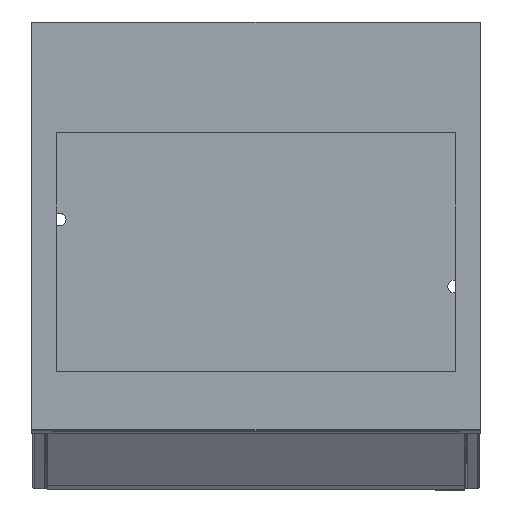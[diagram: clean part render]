
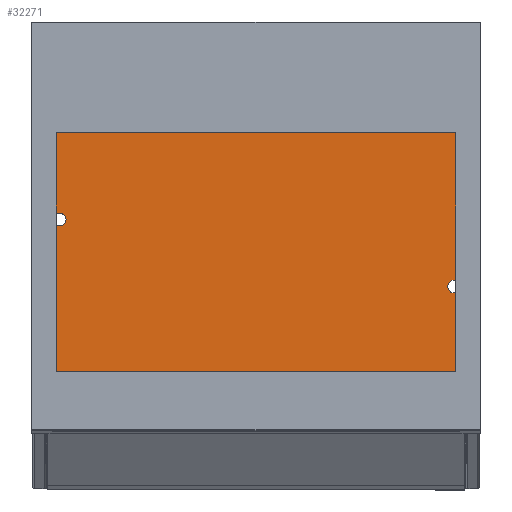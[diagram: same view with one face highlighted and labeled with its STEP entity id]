
A CAD part, top view. The second image highlights one B-rep face of the part: STEP entity #32271.
In plain terms, the highlighted planar face has unit normal (0, 0, 1).
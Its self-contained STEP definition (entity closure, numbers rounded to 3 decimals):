
#2449=CIRCLE('',#35239,11.);
#2450=CIRCLE('',#35240,11.);
#2451=CIRCLE('',#35241,30.);
#8779=ORIENTED_EDGE('',*,*,#15331,.F.);
#8780=ORIENTED_EDGE('',*,*,#15332,.F.);
#8781=ORIENTED_EDGE('',*,*,#15333,.F.);
#8782=ORIENTED_EDGE('',*,*,#15334,.F.);
#8783=ORIENTED_EDGE('',*,*,#15335,.F.);
#8784=ORIENTED_EDGE('',*,*,#15336,.F.);
#8785=ORIENTED_EDGE('',*,*,#15337,.F.);
#8786=ORIENTED_EDGE('',*,*,#15338,.F.);
#8787=ORIENTED_EDGE('',*,*,#15339,.F.);
#8788=ORIENTED_EDGE('',*,*,#15340,.F.);
#8789=ORIENTED_EDGE('',*,*,#15341,.F.);
#8790=ORIENTED_EDGE('',*,*,#15342,.F.);
#8791=ORIENTED_EDGE('',*,*,#15343,.F.);
#8792=ORIENTED_EDGE('',*,*,#15344,.F.);
#8793=ORIENTED_EDGE('',*,*,#15345,.F.);
#8794=ORIENTED_EDGE('',*,*,#15346,.F.);
#8795=ORIENTED_EDGE('',*,*,#15347,.F.);
#8796=ORIENTED_EDGE('',*,*,#15348,.F.);
#8797=ORIENTED_EDGE('',*,*,#15349,.F.);
#8798=ORIENTED_EDGE('',*,*,#15350,.F.);
#8799=ORIENTED_EDGE('',*,*,#15351,.F.);
#8800=ORIENTED_EDGE('',*,*,#15352,.F.);
#8801=ORIENTED_EDGE('',*,*,#15353,.F.);
#8802=ORIENTED_EDGE('',*,*,#15354,.F.);
#8803=ORIENTED_EDGE('',*,*,#15355,.F.);
#8804=ORIENTED_EDGE('',*,*,#15356,.F.);
#8805=ORIENTED_EDGE('',*,*,#15357,.F.);
#8806=ORIENTED_EDGE('',*,*,#15358,.F.);
#8807=ORIENTED_EDGE('',*,*,#15359,.F.);
#8808=ORIENTED_EDGE('',*,*,#15360,.F.);
#8809=ORIENTED_EDGE('',*,*,#15361,.T.);
#15331=EDGE_CURVE('',#18936,#18937,#21742,.T.);
#15332=EDGE_CURVE('',#18938,#18936,#21743,.T.);
#15333=EDGE_CURVE('',#18939,#18938,#21744,.T.);
#15334=EDGE_CURVE('',#18937,#18939,#21745,.T.);
#15335=EDGE_CURVE('',#18940,#18941,#21746,.T.);
#15336=EDGE_CURVE('',#18942,#18940,#21747,.T.);
#15337=EDGE_CURVE('',#18943,#18942,#21748,.T.);
#15338=EDGE_CURVE('',#18944,#18943,#21749,.T.);
#15339=EDGE_CURVE('',#18945,#18944,#21750,.T.);
#15340=EDGE_CURVE('',#18941,#18945,#21751,.T.);
#15341=EDGE_CURVE('',#18946,#18947,#21752,.T.);
#15342=EDGE_CURVE('',#18948,#18946,#21753,.T.);
#15343=EDGE_CURVE('',#18949,#18948,#21754,.T.);
#15344=EDGE_CURVE('',#18950,#18949,#21755,.T.);
#15345=EDGE_CURVE('',#18951,#18950,#21756,.T.);
#15346=EDGE_CURVE('',#18947,#18951,#21757,.T.);
#15347=EDGE_CURVE('',#18952,#18953,#21758,.T.);
#15348=EDGE_CURVE('',#18954,#18952,#21759,.T.);
#15349=EDGE_CURVE('',#18955,#18954,#21760,.T.);
#15350=EDGE_CURVE('',#18956,#18955,#21761,.T.);
#15351=EDGE_CURVE('',#18957,#18956,#21762,.T.);
#15352=EDGE_CURVE('',#18953,#18957,#21763,.T.);
#15353=EDGE_CURVE('',#18958,#18959,#21764,.T.);
#15354=EDGE_CURVE('',#18960,#18958,#21765,.T.);
#15355=EDGE_CURVE('',#18961,#18960,#21766,.T.);
#15356=EDGE_CURVE('',#18962,#18961,#21767,.T.);
#15357=EDGE_CURVE('',#18963,#18962,#21768,.T.);
#15358=EDGE_CURVE('',#18959,#18963,#21769,.T.);
#15359=EDGE_CURVE('',#18964,#18964,#2449,.T.);
#15360=EDGE_CURVE('',#18965,#18965,#2450,.T.);
#15361=EDGE_CURVE('',#18966,#18966,#2451,.F.);
#18936=VERTEX_POINT('',#55881);
#18937=VERTEX_POINT('',#55882);
#18938=VERTEX_POINT('',#55884);
#18939=VERTEX_POINT('',#55886);
#18940=VERTEX_POINT('',#55889);
#18941=VERTEX_POINT('',#55890);
#18942=VERTEX_POINT('',#55892);
#18943=VERTEX_POINT('',#55894);
#18944=VERTEX_POINT('',#55896);
#18945=VERTEX_POINT('',#55898);
#18946=VERTEX_POINT('',#55901);
#18947=VERTEX_POINT('',#55902);
#18948=VERTEX_POINT('',#55904);
#18949=VERTEX_POINT('',#55906);
#18950=VERTEX_POINT('',#55908);
#18951=VERTEX_POINT('',#55910);
#18952=VERTEX_POINT('',#55913);
#18953=VERTEX_POINT('',#55914);
#18954=VERTEX_POINT('',#55916);
#18955=VERTEX_POINT('',#55918);
#18956=VERTEX_POINT('',#55920);
#18957=VERTEX_POINT('',#55922);
#18958=VERTEX_POINT('',#55925);
#18959=VERTEX_POINT('',#55926);
#18960=VERTEX_POINT('',#55928);
#18961=VERTEX_POINT('',#55930);
#18962=VERTEX_POINT('',#55932);
#18963=VERTEX_POINT('',#55934);
#18964=VERTEX_POINT('',#55937);
#18965=VERTEX_POINT('',#55939);
#18966=VERTEX_POINT('',#55941);
#21742=LINE('',#55880,#24801);
#21743=LINE('',#55883,#24802);
#21744=LINE('',#55885,#24803);
#21745=LINE('',#55887,#24804);
#21746=LINE('',#55888,#24805);
#21747=LINE('',#55891,#24806);
#21748=LINE('',#55893,#24807);
#21749=LINE('',#55895,#24808);
#21750=LINE('',#55897,#24809);
#21751=LINE('',#55899,#24810);
#21752=LINE('',#55900,#24811);
#21753=LINE('',#55903,#24812);
#21754=LINE('',#55905,#24813);
#21755=LINE('',#55907,#24814);
#21756=LINE('',#55909,#24815);
#21757=LINE('',#55911,#24816);
#21758=LINE('',#55912,#24817);
#21759=LINE('',#55915,#24818);
#21760=LINE('',#55917,#24819);
#21761=LINE('',#55919,#24820);
#21762=LINE('',#55921,#24821);
#21763=LINE('',#55923,#24822);
#21764=LINE('',#55924,#24823);
#21765=LINE('',#55927,#24824);
#21766=LINE('',#55929,#24825);
#21767=LINE('',#55931,#24826);
#21768=LINE('',#55933,#24827);
#21769=LINE('',#55935,#24828);
#24801=VECTOR('',#42135,1000.);
#24802=VECTOR('',#42136,1000.);
#24803=VECTOR('',#42137,1000.);
#24804=VECTOR('',#42138,1000.);
#24805=VECTOR('',#42139,1000.);
#24806=VECTOR('',#42140,1000.);
#24807=VECTOR('',#42141,1000.);
#24808=VECTOR('',#42142,1000.);
#24809=VECTOR('',#42143,1000.);
#24810=VECTOR('',#42144,1000.);
#24811=VECTOR('',#42145,1000.);
#24812=VECTOR('',#42146,1000.);
#24813=VECTOR('',#42147,1000.);
#24814=VECTOR('',#42148,1000.);
#24815=VECTOR('',#42149,1000.);
#24816=VECTOR('',#42150,1000.);
#24817=VECTOR('',#42151,1000.);
#24818=VECTOR('',#42152,1000.);
#24819=VECTOR('',#42153,1000.);
#24820=VECTOR('',#42154,1000.);
#24821=VECTOR('',#42155,1000.);
#24822=VECTOR('',#42156,1000.);
#24823=VECTOR('',#42157,1000.);
#24824=VECTOR('',#42158,1000.);
#24825=VECTOR('',#42159,1000.);
#24826=VECTOR('',#42160,1000.);
#24827=VECTOR('',#42161,1000.);
#24828=VECTOR('',#42162,1000.);
#27430=EDGE_LOOP('',(#8779,#8780,#8781,#8782));
#27431=EDGE_LOOP('',(#8783,#8784,#8785,#8786,#8787,#8788));
#27432=EDGE_LOOP('',(#8789,#8790,#8791,#8792,#8793,#8794));
#27433=EDGE_LOOP('',(#8795,#8796,#8797,#8798,#8799,#8800));
#27434=EDGE_LOOP('',(#8801,#8802,#8803,#8804,#8805,#8806));
#27435=EDGE_LOOP('',(#8807));
#27436=EDGE_LOOP('',(#8808));
#27437=EDGE_LOOP('',(#8809));
#29429=FACE_BOUND('',#27430,.T.);
#29430=FACE_BOUND('',#27431,.T.);
#29431=FACE_BOUND('',#27432,.T.);
#29432=FACE_BOUND('',#27433,.T.);
#29433=FACE_BOUND('',#27434,.T.);
#29434=FACE_BOUND('',#27435,.T.);
#29435=FACE_BOUND('',#27436,.T.);
#29436=FACE_BOUND('',#27437,.T.);
#30619=PLANE('',#35238);
#32271=ADVANCED_FACE('',(#29429,#29430,#29431,#29432,#29433,#29434,#29435,
#29436),#30619,.T.);
#35238=AXIS2_PLACEMENT_3D('',#55879,#42133,#42134);
#35239=AXIS2_PLACEMENT_3D('',#55936,#42163,#42164);
#35240=AXIS2_PLACEMENT_3D('',#55938,#42165,#42166);
#35241=AXIS2_PLACEMENT_3D('',#55940,#42167,#42168);
#42133=DIRECTION('',(0.,0.,1.));
#42134=DIRECTION('',(1.,0.,0.));
#42135=DIRECTION('',(-1.,0.,0.));
#42136=DIRECTION('',(0.,-1.,0.));
#42137=DIRECTION('',(1.,0.,0.));
#42138=DIRECTION('',(0.,1.,0.));
#42139=DIRECTION('',(0.866,-0.5,0.));
#42140=DIRECTION('',(0.,-1.,0.));
#42141=DIRECTION('',(-0.866,-0.5,0.));
#42142=DIRECTION('',(-0.866,0.5,0.));
#42143=DIRECTION('',(0.,1.,0.));
#42144=DIRECTION('',(0.866,0.5,0.));
#42145=DIRECTION('',(0.866,-0.5,0.));
#42146=DIRECTION('',(0.,-1.,0.));
#42147=DIRECTION('',(-0.866,-0.5,0.));
#42148=DIRECTION('',(-0.866,0.5,0.));
#42149=DIRECTION('',(0.,1.,0.));
#42150=DIRECTION('',(0.866,0.5,0.));
#42151=DIRECTION('',(0.866,-0.5,0.));
#42152=DIRECTION('',(0.,-1.,0.));
#42153=DIRECTION('',(-0.866,-0.5,0.));
#42154=DIRECTION('',(-0.866,0.5,0.));
#42155=DIRECTION('',(0.,1.,0.));
#42156=DIRECTION('',(0.866,0.5,0.));
#42157=DIRECTION('',(0.866,-0.5,0.));
#42158=DIRECTION('',(0.,-1.,0.));
#42159=DIRECTION('',(-0.866,-0.5,0.));
#42160=DIRECTION('',(-0.866,0.5,0.));
#42161=DIRECTION('',(0.,1.,0.));
#42162=DIRECTION('',(0.866,0.5,0.));
#42163=DIRECTION('',(0.,0.,1.));
#42164=DIRECTION('',(1.,0.,0.));
#42165=DIRECTION('',(0.,0.,1.));
#42166=DIRECTION('',(1.,0.,0.));
#42167=DIRECTION('',(0.,0.,1.));
#42168=DIRECTION('',(1.,0.,0.));
#55879=CARTESIAN_POINT('',(-359.6,-373.3,1.2));
#55880=CARTESIAN_POINT('',(358.398,-372.098,1.2));
#55881=CARTESIAN_POINT('',(358.398,-372.098,1.2));
#55882=CARTESIAN_POINT('',(-358.398,-372.098,1.2));
#55883=CARTESIAN_POINT('',(358.398,372.098,1.2));
#55884=CARTESIAN_POINT('',(358.398,372.098,1.2));
#55885=CARTESIAN_POINT('',(-358.398,372.098,1.2));
#55886=CARTESIAN_POINT('',(-358.398,372.098,1.2));
#55887=CARTESIAN_POINT('',(-358.398,-373.3,1.2));
#55888=CARTESIAN_POINT('',(313.1,329.547,1.2));
#55889=CARTESIAN_POINT('',(313.1,329.547,1.2));
#55890=CARTESIAN_POINT('',(319.6,325.794,1.2));
#55891=CARTESIAN_POINT('',(313.1,337.053,1.2));
#55892=CARTESIAN_POINT('',(313.1,337.053,1.2));
#55893=CARTESIAN_POINT('',(319.6,340.806,1.2));
#55894=CARTESIAN_POINT('',(319.6,340.806,1.2));
#55895=CARTESIAN_POINT('',(326.1,337.053,1.2));
#55896=CARTESIAN_POINT('',(326.1,337.053,1.2));
#55897=CARTESIAN_POINT('',(326.1,329.547,1.2));
#55898=CARTESIAN_POINT('',(326.1,329.547,1.2));
#55899=CARTESIAN_POINT('',(319.6,325.794,1.2));
#55900=CARTESIAN_POINT('',(313.1,-337.053,1.2));
#55901=CARTESIAN_POINT('',(313.1,-337.053,1.2));
#55902=CARTESIAN_POINT('',(319.6,-340.806,1.2));
#55903=CARTESIAN_POINT('',(313.1,-329.547,1.2));
#55904=CARTESIAN_POINT('',(313.1,-329.547,1.2));
#55905=CARTESIAN_POINT('',(319.6,-325.794,1.2));
#55906=CARTESIAN_POINT('',(319.6,-325.794,1.2));
#55907=CARTESIAN_POINT('',(326.1,-329.547,1.2));
#55908=CARTESIAN_POINT('',(326.1,-329.547,1.2));
#55909=CARTESIAN_POINT('',(326.1,-337.053,1.2));
#55910=CARTESIAN_POINT('',(326.1,-337.053,1.2));
#55911=CARTESIAN_POINT('',(319.6,-340.806,1.2));
#55912=CARTESIAN_POINT('',(-326.1,329.547,1.2));
#55913=CARTESIAN_POINT('',(-326.1,329.547,1.2));
#55914=CARTESIAN_POINT('',(-319.6,325.794,1.2));
#55915=CARTESIAN_POINT('',(-326.1,337.053,1.2));
#55916=CARTESIAN_POINT('',(-326.1,337.053,1.2));
#55917=CARTESIAN_POINT('',(-319.6,340.806,1.2));
#55918=CARTESIAN_POINT('',(-319.6,340.806,1.2));
#55919=CARTESIAN_POINT('',(-313.1,337.053,1.2));
#55920=CARTESIAN_POINT('',(-313.1,337.053,1.2));
#55921=CARTESIAN_POINT('',(-313.1,329.547,1.2));
#55922=CARTESIAN_POINT('',(-313.1,329.547,1.2));
#55923=CARTESIAN_POINT('',(-319.6,325.794,1.2));
#55924=CARTESIAN_POINT('',(-326.1,-337.053,1.2));
#55925=CARTESIAN_POINT('',(-326.1,-337.053,1.2));
#55926=CARTESIAN_POINT('',(-319.6,-340.806,1.2));
#55927=CARTESIAN_POINT('',(-326.1,-329.547,1.2));
#55928=CARTESIAN_POINT('',(-326.1,-329.547,1.2));
#55929=CARTESIAN_POINT('',(-319.6,-325.794,1.2));
#55930=CARTESIAN_POINT('',(-319.6,-325.794,1.2));
#55931=CARTESIAN_POINT('',(-313.1,-329.547,1.2));
#55932=CARTESIAN_POINT('',(-313.1,-329.547,1.2));
#55933=CARTESIAN_POINT('',(-313.1,-337.053,1.2));
#55934=CARTESIAN_POINT('',(-313.1,-337.053,1.2));
#55935=CARTESIAN_POINT('',(-319.6,-340.806,1.2));
#55936=CARTESIAN_POINT('',(337.,-58.099,1.2));
#55937=CARTESIAN_POINT('',(348.,-58.099,1.2));
#55938=CARTESIAN_POINT('',(-340.,56.901,1.2));
#55939=CARTESIAN_POINT('',(-329.,56.901,1.2));
#55940=CARTESIAN_POINT('',(0.,-264.275,1.2));
#55941=CARTESIAN_POINT('',(30.,-264.275,1.2));
